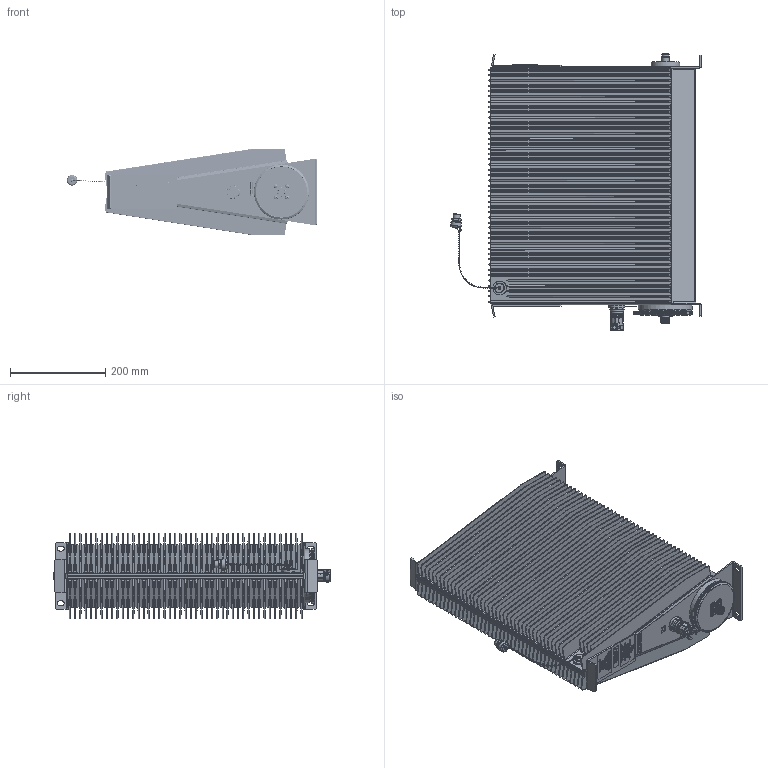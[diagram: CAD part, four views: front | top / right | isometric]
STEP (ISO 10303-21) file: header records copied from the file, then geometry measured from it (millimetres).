
FILE_DESCRIPTION(/* description */ ('Unknown'),/* implementation_level */ '2;1');
FILE_NAME(/* name */ '8329-300_RevP',/* time_stamp */ '2018-02-01T14:59:29-05:00',/* author */ ('Unknown'),/* organization */ ('Unknown'),/* preprocessor_version */ 'ST-DEVELOPER v16.7',/* originating_system */ 'DEX',/* authorisation */ $);
FILE_SCHEMA (('AUTOMOTIVE_DESIGN {1 0 10303 214 3 1 1}'));
Products named in the file (1): 8329-3002
Bounding box: 524.89 x 581.31 x 179.86 mm (x, y, z)
Volume: 5442566.6 mm3; surface area: 3475115.3 mm2
Topology: 4 solids, 14 shells, 9483 faces, 26131 edges, 17374 vertices
Faces by surface type: plane 7656, bspline 873, cylinder 745, cone 122, sphere 48, torus 39
Full cylindrical faces by diameter (mm): 0.76 x1, 0.823 x1, 1.037 x1, 1.062 x1, 1.143 x4, 1.524 x1, 1.834 x2, 1.953 x1, 2.156 x17, 2.335 x1, 2.54 x1, 2.616 x4, 2.972 x1, 3.157 x2, 3.307 x8, 3.81 x4, 4.166 x8, 4.572 x8, 4.826 x2, 5.309 x1, 5.563 x1, 7.01 x1, 7.137 x2, 9.779 x1, 9.804 x1, 9.982 x1, 10.084 x1, 10.364 x1, 11.557 x1, 12.243 x1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
Entity records: 403370 total; most frequent: CARTESIAN_POINT 103499, ORIENTED_EDGE 51102, DIRECTION 42195, EDGE_CURVE 25551, LINE 21483, VECTOR 21483, VERTEX_POINT 17182, FACE_BOUND 10615
